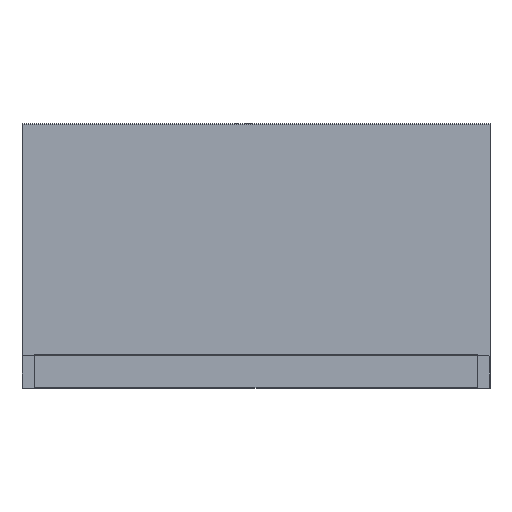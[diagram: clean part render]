
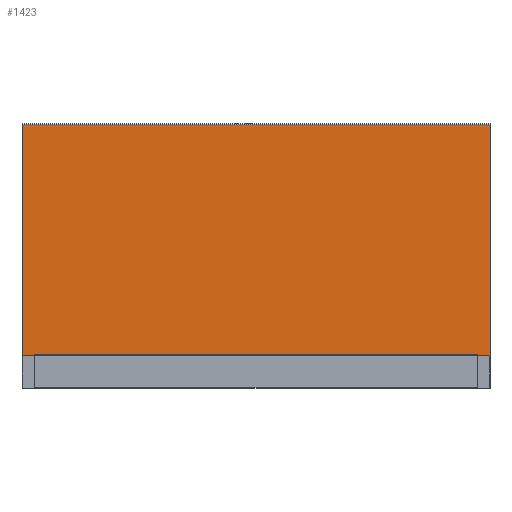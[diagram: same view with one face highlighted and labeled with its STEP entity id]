
A CAD part, front view. The second image highlights one B-rep face of the part: STEP entity #1423.
In plain terms, the highlighted planar face has unit normal (0, -1, 0).
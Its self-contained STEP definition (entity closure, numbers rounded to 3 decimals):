
#532=CARTESIAN_POINT('',(-545.,1.,82.));
#533=VERTEX_POINT('',#532);
#808=CARTESIAN_POINT('',(-545.1,1.,82.));
#809=VERTEX_POINT('',#808);
#810=CARTESIAN_POINT('',(-545.1,1.,82.));
#811=DIRECTION('',(1.,0.,-0.));
#812=VECTOR('',#811,0.1);
#813=LINE('',#810,#812);
#814=EDGE_CURVE('',#809,#533,#813,.T.);
#838=CARTESIAN_POINT('',(-545.1,1.,80.));
#839=VERTEX_POINT('',#838);
#848=CARTESIAN_POINT('',(-575.,1.,80.));
#849=VERTEX_POINT('',#848);
#850=CARTESIAN_POINT('',(-545.1,1.,80.));
#851=DIRECTION('',(-1.,0.,0.));
#852=VECTOR('',#851,29.9);
#853=LINE('',#850,#852);
#854=EDGE_CURVE('',#839,#849,#853,.T.);
#1004=CARTESIAN_POINT('',(575.,1.,80.));
#1005=VERTEX_POINT('',#1004);
#1006=CARTESIAN_POINT('',(545.1,1.,80.));
#1007=VERTEX_POINT('',#1006);
#1008=CARTESIAN_POINT('',(575.,1.,80.));
#1009=DIRECTION('',(-1.,0.,0.));
#1010=VECTOR('',#1009,29.9);
#1011=LINE('',#1008,#1010);
#1012=EDGE_CURVE('',#1005,#1007,#1011,.T.);
#1344=CARTESIAN_POINT('',(-575.,1.,648.));
#1345=VERTEX_POINT('',#1344);
#1353=CARTESIAN_POINT('',(575.,1.,648.));
#1354=VERTEX_POINT('',#1353);
#1355=CARTESIAN_POINT('',(575.,1.,648.));
#1356=DIRECTION('',(-1.,0.,0.));
#1357=VECTOR('',#1356,1150.);
#1358=LINE('',#1355,#1357);
#1359=EDGE_CURVE('',#1354,#1345,#1358,.T.);
#1372=CARTESIAN_POINT('',(575.,1.,648.));
#1373=DIRECTION('',(0.,1.,0.));
#1374=DIRECTION('',(0.,0.,1.));
#1375=AXIS2_PLACEMENT_3D('',#1372,#1373,#1374);
#1376=PLANE('',#1375);
#1377=ORIENTED_EDGE('',*,*,#854,.F.);
#1378=CARTESIAN_POINT('',(-545.1,1.,80.));
#1379=DIRECTION('',(0.,0.,1.));
#1380=VECTOR('',#1379,2.);
#1381=LINE('',#1378,#1380);
#1382=EDGE_CURVE('',#839,#809,#1381,.T.);
#1383=ORIENTED_EDGE('',*,*,#1382,.T.);
#1384=ORIENTED_EDGE('',*,*,#814,.T.);
#1385=CARTESIAN_POINT('',(545.,1.,82.));
#1386=VERTEX_POINT('',#1385);
#1387=CARTESIAN_POINT('',(-545.,1.,82.));
#1388=DIRECTION('',(1.,0.,-0.));
#1389=VECTOR('',#1388,1090.);
#1390=LINE('',#1387,#1389);
#1391=EDGE_CURVE('',#533,#1386,#1390,.T.);
#1392=ORIENTED_EDGE('',*,*,#1391,.T.);
#1393=CARTESIAN_POINT('',(545.1,1.,82.));
#1394=VERTEX_POINT('',#1393);
#1395=CARTESIAN_POINT('',(545.,1.,82.));
#1396=DIRECTION('',(1.,0.,-0.));
#1397=VECTOR('',#1396,0.1);
#1398=LINE('',#1395,#1397);
#1399=EDGE_CURVE('',#1386,#1394,#1398,.T.);
#1400=ORIENTED_EDGE('',*,*,#1399,.T.);
#1401=CARTESIAN_POINT('',(545.1,1.,82.));
#1402=DIRECTION('',(0.,0.,-1.));
#1403=VECTOR('',#1402,2.);
#1404=LINE('',#1401,#1403);
#1405=EDGE_CURVE('',#1394,#1007,#1404,.T.);
#1406=ORIENTED_EDGE('',*,*,#1405,.T.);
#1407=ORIENTED_EDGE('',*,*,#1012,.F.);
#1408=CARTESIAN_POINT('',(575.,1.,648.));
#1409=DIRECTION('',(0.,0.,-1.));
#1410=VECTOR('',#1409,568.);
#1411=LINE('',#1408,#1410);
#1412=EDGE_CURVE('',#1354,#1005,#1411,.T.);
#1413=ORIENTED_EDGE('',*,*,#1412,.F.);
#1414=ORIENTED_EDGE('',*,*,#1359,.T.);
#1415=CARTESIAN_POINT('',(-575.,1.,648.));
#1416=DIRECTION('',(0.,0.,-1.));
#1417=VECTOR('',#1416,568.);
#1418=LINE('',#1415,#1417);
#1419=EDGE_CURVE('',#1345,#849,#1418,.T.);
#1420=ORIENTED_EDGE('',*,*,#1419,.T.);
#1421=EDGE_LOOP('',(#1377,#1383,#1384,#1392,#1400,#1406,#1407,#1413,#1414,#1420));
#1422=FACE_BOUND('',#1421,.T.);
#1423=ADVANCED_FACE('',(#1422),#1376,.F.);
